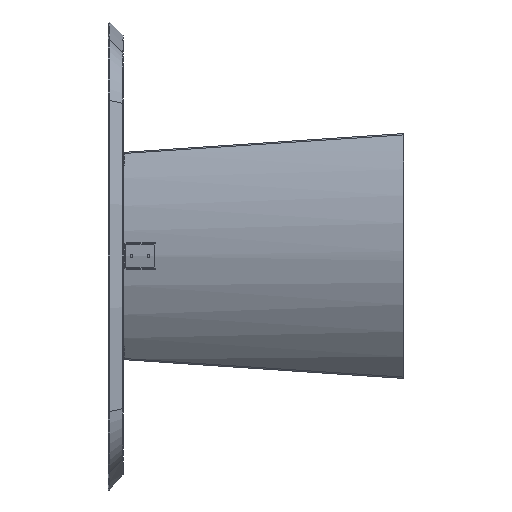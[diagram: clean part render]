
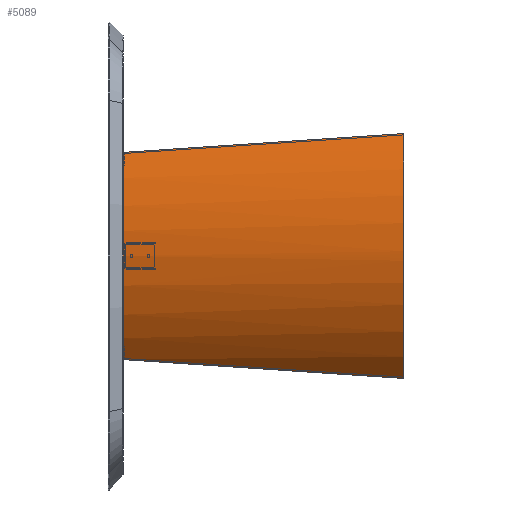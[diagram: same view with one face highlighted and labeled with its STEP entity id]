
A CAD part, left-side view. The second image highlights one B-rep face of the part: STEP entity #5089.
In plain terms, the highlighted cylindrical face has radius 455 mm (diameter 910 mm), a partial arc.
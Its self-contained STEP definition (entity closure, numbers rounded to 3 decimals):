
#165 = EDGE_CURVE ( 'NONE', #1851, #6661, #910, .T. ) ;
#246 = CARTESIAN_POINT ( 'NONE',  ( 96.167, 720., -186.04 ) ) ;
#274 = CARTESIAN_POINT ( 'NONE',  ( -231.469, 1.123, -48.677 ) ) ;
#479 = CARTESIAN_POINT ( 'NONE',  ( 298.867, 241.995, -177.363 ) ) ;
#537 = VERTEX_POINT ( 'NONE', #8010 ) ;
#910 = CIRCLE ( 'NONE', #7448, 455. ) ;
#1205 = CARTESIAN_POINT ( 'NONE',  ( -314.022, 0.906, -129.942 ) ) ;
#1480 = FACE_OUTER_BOUND ( 'NONE', #6512, .T. ) ;
#1519 = CARTESIAN_POINT ( 'NONE',  ( 12.104, 1.251, -0.325 ) ) ;
#1563 = CARTESIAN_POINT ( 'NONE',  ( 12.104, 1.251, -0.325 ) ) ;
#1826 = DIRECTION ( 'NONE',  ( 0., -0.968, 0.25 ) ) ;
#1851 = VERTEX_POINT ( 'NONE', #1519 ) ;
#2055 = CARTESIAN_POINT ( 'NONE',  ( -12.104, 1.251, -0.325 ) ) ;
#2112 = CARTESIAN_POINT ( 'NONE',  ( 0., 720., -186.04 ) ) ;
#2255 = VERTEX_POINT ( 'NONE', #11273 ) ;
#2407 = ORIENTED_EDGE ( 'NONE', *, *, #2427, .T. ) ;
#2427 = EDGE_CURVE ( 'NONE', #8983, #2255, #7832, .T. ) ;
#2529 = DIRECTION ( 'NONE',  ( 0., -0.968, 0.25 ) ) ;
#2546 = CARTESIAN_POINT ( 'NONE',  ( 265.753, 720., -274.535 ) ) ;
#2742 = CARTESIAN_POINT ( 'NONE',  ( 231.469, 1.123, -48.677 ) ) ;
#2824 = CARTESIAN_POINT ( 'NONE',  ( -314.022, 0.906, -129.942 ) ) ;
#2922 = EDGE_CURVE ( 'NONE', #7852, #8983, #9847, .T. ) ;
#3133 = CARTESIAN_POINT ( 'NONE',  ( -96.167, 720., -186.04 ) ) ;
#4262 = CARTESIAN_POINT ( 'NONE',  ( -282.752, 482.074, -225.637 ) ) ;
#4385 = CARTESIAN_POINT ( 'NONE',  ( 314.022, 0.906, -129.942 ) ) ;
#4496 = ORIENTED_EDGE ( 'NONE', *, *, #2922, .T. ) ;
#4680 = CARTESIAN_POINT ( 'NONE',  ( -12.104, 1.251, -0.325 ) ) ;
#4702 = CARTESIAN_POINT ( 'NONE',  ( 265.753, 720., -274.535 ) ) ;
#5028 = ORIENTED_EDGE ( 'NONE', *, *, #165, .F. ) ;
#5068 = CYLINDRICAL_SURFACE ( 'NONE', #5861, 455. ) ;
#5089 = ADVANCED_FACE ( 'NONE', ( #1480 ), #5068, .T. ) ;
#5503 = CARTESIAN_POINT ( 'NONE',  ( 0., 720., -186.04 ) ) ;
#5822 =( BOUNDED_CURVE ( )  B_SPLINE_CURVE ( 3, ( #1205, #274, #10001, #4680 ),
 .UNSPECIFIED., .F., .F. ) 
 B_SPLINE_CURVE_WITH_KNOTS ( ( 4, 4 ),
 ( 5.521, 6.257 ),
 .UNSPECIFIED. ) 
 CURVE ( )  GEOMETRIC_REPRESENTATION_ITEM ( )  RATIONAL_B_SPLINE_CURVE ( ( 1., 0.955, 0.955, 1. ) ) 
 REPRESENTATION_ITEM ( '' )  );
#5826 = CARTESIAN_POINT ( 'NONE',  ( 314.022, 0.906, -129.942 ) ) ;
#5861 = AXIS2_PLACEMENT_3D ( 'NONE', #8630, #2529, #7923 ) ;
#6092 = EDGE_CURVE ( 'NONE', #1851, #537, #6268, .T. ) ;
#6268 =( BOUNDED_CURVE ( )  B_SPLINE_CURVE ( 3, ( #1563, #8708, #2742, #4385 ),
 .UNSPECIFIED., .F., .F. ) 
 B_SPLINE_CURVE_WITH_KNOTS ( ( 4, 4 ),
 ( 0.027, 0.762 ),
 .UNSPECIFIED. ) 
 CURVE ( )  GEOMETRIC_REPRESENTATION_ITEM ( )  RATIONAL_B_SPLINE_CURVE ( ( 1., 0.955, 0.955, 1. ) ) 
 REPRESENTATION_ITEM ( '' )  );
#6468 = ORIENTED_EDGE ( 'NONE', *, *, #8723, .F. ) ;
#6512 = EDGE_LOOP ( 'NONE', ( #4496, #2407, #6468, #10119, #5028, #8585, #6697 ) ) ;
#6661 = VERTEX_POINT ( 'NONE', #2055 ) ;
#6697 = ORIENTED_EDGE ( 'NONE', *, *, #11313, .T. ) ;
#6752 = CARTESIAN_POINT ( 'NONE',  ( 265.753, 720., -274.535 ) ) ;
#7448 = AXIS2_PLACEMENT_3D ( 'NONE', #10661, #1826, #7922 ) ;
#7516 = CARTESIAN_POINT ( 'NONE',  ( -265.753, 720., -274.535 ) ) ;
#7577 = CARTESIAN_POINT ( 'NONE',  ( -187.694, 720., -216.518 ) ) ;
#7626 = CARTESIAN_POINT ( 'NONE',  ( 282.752, 482.074, -225.637 ) ) ;
#7832 =( BOUNDED_CURVE ( )  B_SPLINE_CURVE ( 3, ( #11015, #3133, #7577, #7516 ),
 .UNSPECIFIED., .F., .F. ) 
 B_SPLINE_CURVE_WITH_KNOTS ( ( 4, 4 ),
 ( 0., 0.624 ),
 .UNSPECIFIED. ) 
 CURVE ( )  GEOMETRIC_REPRESENTATION_ITEM ( )  RATIONAL_B_SPLINE_CURVE ( ( 1., 0.968, 0.968, 1. ) ) 
 REPRESENTATION_ITEM ( '' )  );
#7852 = VERTEX_POINT ( 'NONE', #2546 ) ;
#7922 = DIRECTION ( 'NONE',  ( -1., 0., 0. ) ) ;
#7923 = DIRECTION ( 'NONE',  ( 0., -0.25, -0.968 ) ) ;
#8010 = CARTESIAN_POINT ( 'NONE',  ( 314.022, 0.906, -129.942 ) ) ;
#8276 = CARTESIAN_POINT ( 'NONE',  ( 187.694, 720., -216.518 ) ) ;
#8470 = EDGE_CURVE ( 'NONE', #11507, #6661, #5822, .T. ) ;
#8585 = ORIENTED_EDGE ( 'NONE', *, *, #6092, .T. ) ;
#8630 = CARTESIAN_POINT ( 'NONE',  ( 0., 690.447, -648.367 ) ) ;
#8708 = CARTESIAN_POINT ( 'NONE',  ( 126.14, 1.243, -3.458 ) ) ;
#8723 = EDGE_CURVE ( 'NONE', #11507, #2255, #11094, .T. ) ;
#8763 = CARTESIAN_POINT ( 'NONE',  ( -314.022, 0.906, -129.942 ) ) ;
#8983 = VERTEX_POINT ( 'NONE', #5503 ) ;
#9415 = CARTESIAN_POINT ( 'NONE',  ( -265.753, 720., -274.535 ) ) ;
#9847 =( BOUNDED_CURVE ( )  B_SPLINE_CURVE ( 3, ( #4702, #8276, #246, #2112 ),
 .UNSPECIFIED., .F., .F. ) 
 B_SPLINE_CURVE_WITH_KNOTS ( ( 4, 4 ),
 ( 5.659, 6.283 ),
 .UNSPECIFIED. ) 
 CURVE ( )  GEOMETRIC_REPRESENTATION_ITEM ( )  RATIONAL_B_SPLINE_CURVE ( ( 1., 0.968, 0.968, 1. ) ) 
 REPRESENTATION_ITEM ( '' )  );
#10001 = CARTESIAN_POINT ( 'NONE',  ( -126.14, 1.243, -3.458 ) ) ;
#10119 = ORIENTED_EDGE ( 'NONE', *, *, #8470, .T. ) ;
#10210 =( BOUNDED_CURVE ( )  B_SPLINE_CURVE ( 3, ( #5826, #479, #7626, #6752 ),
 .UNSPECIFIED., .F., .F. ) 
 B_SPLINE_CURVE_WITH_KNOTS ( ( 4, 4 ),
 ( 1.582, 1.719 ),
 .UNSPECIFIED. ) 
 CURVE ( )  GEOMETRIC_REPRESENTATION_ITEM ( )  RATIONAL_B_SPLINE_CURVE ( ( 1., 0.998, 0.998, 1. ) ) 
 REPRESENTATION_ITEM ( '' )  );
#10661 = CARTESIAN_POINT ( 'NONE',  ( 0., -112.631, -440.677 ) ) ;
#11015 = CARTESIAN_POINT ( 'NONE',  ( 0., 720., -186.04 ) ) ;
#11094 =( BOUNDED_CURVE ( )  B_SPLINE_CURVE ( 3, ( #8763, #11212, #4262, #9415 ),
 .UNSPECIFIED., .F., .F. ) 
 B_SPLINE_CURVE_WITH_KNOTS ( ( 4, 4 ),
 ( 1.582, 1.719 ),
 .UNSPECIFIED. ) 
 CURVE ( )  GEOMETRIC_REPRESENTATION_ITEM ( )  RATIONAL_B_SPLINE_CURVE ( ( 1., 0.998, 0.998, 1. ) ) 
 REPRESENTATION_ITEM ( '' )  );
#11212 = CARTESIAN_POINT ( 'NONE',  ( -298.867, 241.995, -177.363 ) ) ;
#11273 = CARTESIAN_POINT ( 'NONE',  ( -265.753, 720., -274.535 ) ) ;
#11313 = EDGE_CURVE ( 'NONE', #537, #7852, #10210, .T. ) ;
#11507 = VERTEX_POINT ( 'NONE', #2824 ) ;
